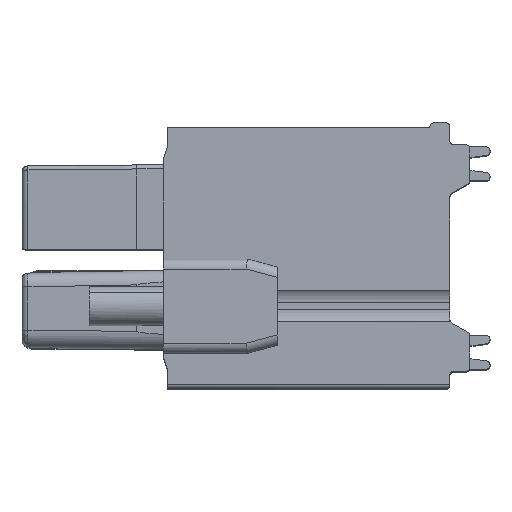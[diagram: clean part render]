
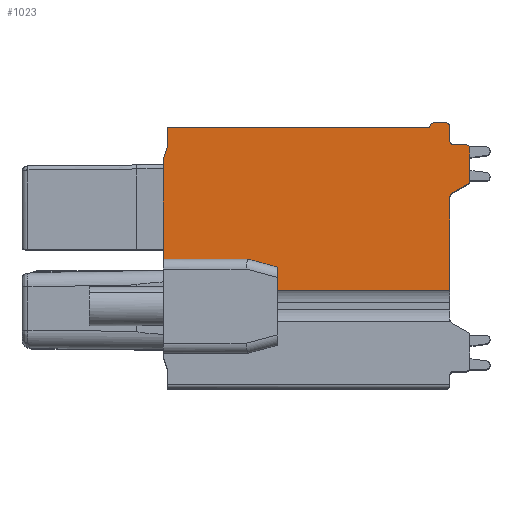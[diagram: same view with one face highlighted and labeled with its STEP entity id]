
A CAD part, top view. The second image highlights one B-rep face of the part: STEP entity #1023.
In plain terms, the highlighted planar face has unit normal (0, 0, 1).
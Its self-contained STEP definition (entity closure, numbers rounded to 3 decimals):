
#1023=ADVANCED_FACE('',(#11076),#11075,.F.);
#11075=PLANE('',#20906);
#11076=FACE_OUTER_BOUND('',#20907,.T.);
#20903=CARTESIAN_POINT('',(18.342,60.223,-4.975));
#20904=DIRECTION('',(0.,0.,-1.));
#20905=DIRECTION('',(1.,0.,0.));
#20906=AXIS2_PLACEMENT_3D('',#20903,#20904,#20905);
#20907=EDGE_LOOP('',(#27706,#27707,#27708,#27709,#27710,#27711,#27712,#27713,#27714,#27715,#27716,#27717,#27718,#27719,#27720,#27721,#27722,#27723,#27724,#27725,#27726,#27727));
#27706=ORIENTED_EDGE('',*,*,#28634,.T.);
#27707=ORIENTED_EDGE('',*,*,#31230,.T.);
#27708=ORIENTED_EDGE('',*,*,#31206,.F.);
#27709=ORIENTED_EDGE('',*,*,#31202,.T.);
#27710=ORIENTED_EDGE('',*,*,#31338,.F.);
#27711=ORIENTED_EDGE('',*,*,#31336,.F.);
#27712=ORIENTED_EDGE('',*,*,#31198,.F.);
#27713=ORIENTED_EDGE('',*,*,#31214,.F.);
#27714=ORIENTED_EDGE('',*,*,#31216,.F.);
#27715=ORIENTED_EDGE('',*,*,#31229,.T.);
#27716=ORIENTED_EDGE('',*,*,#31347,.T.);
#27717=ORIENTED_EDGE('',*,*,#31348,.T.);
#27718=ORIENTED_EDGE('',*,*,#31349,.F.);
#27719=ORIENTED_EDGE('',*,*,#31350,.T.);
#27720=ORIENTED_EDGE('',*,*,#31298,.T.);
#27721=ORIENTED_EDGE('',*,*,#31351,.F.);
#27722=ORIENTED_EDGE('',*,*,#31352,.F.);
#27723=ORIENTED_EDGE('',*,*,#31353,.T.);
#27724=ORIENTED_EDGE('',*,*,#31285,.T.);
#27725=ORIENTED_EDGE('',*,*,#31354,.T.);
#27726=ORIENTED_EDGE('',*,*,#31355,.T.);
#27727=ORIENTED_EDGE('',*,*,#31356,.F.);
#28634=EDGE_CURVE('',#31868,#31861,#31869,.T.);
#31198=EDGE_CURVE('',#48933,#48934,#48935,.T.);
#31202=EDGE_CURVE('',#48961,#48962,#48963,.T.);
#31206=EDGE_CURVE('',#48961,#48989,#48990,.T.);
#31214=EDGE_CURVE('',#49042,#48933,#49043,.T.);
#31216=EDGE_CURVE('',#49055,#49042,#49056,.T.);
#31229=EDGE_CURVE('',#49055,#49130,#49137,.T.);
#31230=EDGE_CURVE('',#31861,#48989,#49143,.T.);
#31285=EDGE_CURVE('',#49513,#49506,#49514,.T.);
#31298=EDGE_CURVE('',#49602,#49595,#49603,.T.);
#31336=EDGE_CURVE('',#48934,#49845,#49846,.T.);
#31338=EDGE_CURVE('',#49845,#48962,#49858,.T.);
#31347=EDGE_CURVE('',#49130,#49916,#49917,.T.);
#31348=EDGE_CURVE('',#49916,#49923,#49924,.T.);
#31349=EDGE_CURVE('',#49930,#49923,#49931,.T.);
#31350=EDGE_CURVE('',#49930,#49602,#49937,.T.);
#31351=EDGE_CURVE('',#49943,#49595,#49944,.T.);
#31352=EDGE_CURVE('',#49950,#49943,#49951,.T.);
#31353=EDGE_CURVE('',#49950,#49513,#49957,.T.);
#31354=EDGE_CURVE('',#49506,#49963,#49964,.T.);
#31355=EDGE_CURVE('',#49963,#49970,#49971,.T.);
#31356=EDGE_CURVE('',#31868,#49970,#49977,.T.);
#31861=VERTEX_POINT('',#51835);
#31868=VERTEX_POINT('',#51840);
#31869=LINE('',#51841,#51842);
#48933=VERTEX_POINT('',#63990);
#48934=VERTEX_POINT('',#63991);
#48935=CIRCLE('',#63995,0.2);
#48961=VERTEX_POINT('',#64008);
#48962=VERTEX_POINT('',#64009);
#48963=LINE('',#64010,#64011);
#48989=VERTEX_POINT('',#64024);
#48990=CIRCLE('',#64028,0.2);
#49042=VERTEX_POINT('',#64057);
#49043=LINE('',#64058,#64059);
#49055=VERTEX_POINT('',#64064);
#49056=CIRCLE('',#64068,0.2);
#49130=VERTEX_POINT('',#64108);
#49137=LINE('',#64112,#64113);
#49143=LINE('',#64115,#64116);
#49506=VERTEX_POINT('',#64345);
#49513=VERTEX_POINT('',#64349);
#49514=LINE('',#64350,#64351);
#49595=VERTEX_POINT('',#64396);
#49602=VERTEX_POINT('',#64400);
#49603=LINE('',#64401,#64402);
#49845=VERTEX_POINT('',#64538);
#49846=LINE('',#64539,#64540);
#49858=CIRCLE('',#64548,0.2);
#49916=VERTEX_POINT('',#64579);
#49917=CIRCLE('',#64583,0.2);
#49923=VERTEX_POINT('',#64584);
#49924=LINE('',#64585,#64586);
#49930=VERTEX_POINT('',#64588);
#49931=CIRCLE('',#64592,0.2);
#49937=LINE('',#64593,#64594);
#49943=VERTEX_POINT('',#64596);
#49944=LINE('',#64597,#64598);
#49950=VERTEX_POINT('',#64600);
#49951=LINE('',#64601,#64602);
#49957=LINE('',#64604,#64605);
#49963=VERTEX_POINT('',#64607);
#49964=LINE('',#64608,#64609);
#49970=VERTEX_POINT('',#64611);
#49971=LINE('',#64612,#64613);
#49977=LINE('',#64615,#64616);
#51835=CARTESIAN_POINT('',(34.172,51.023,-4.975));
#51840=CARTESIAN_POINT('',(25.412,51.023,-4.975));
#51841=CARTESIAN_POINT('',(25.412,51.023,-4.975));
#51842=VECTOR('',#51843,8.76);
#51843=DIRECTION('',(1.,0.,0.));
#63990=CARTESIAN_POINT('',(34.972,58.287,-4.975));
#63991=CARTESIAN_POINT('',(35.172,58.087,-4.975));
#63992=CARTESIAN_POINT('',(34.972,58.087,-4.975));
#63993=DIRECTION('',(0.,0.,-1.));
#63994=DIRECTION('',(0.,-1.,0.));
#63995=AXIS2_PLACEMENT_3D('',#63992,#63993,#63994);
#64008=CARTESIAN_POINT('',(34.272,55.867,-4.975));
#64009=CARTESIAN_POINT('',(35.072,56.329,-4.975));
#64010=CARTESIAN_POINT('',(34.272,55.867,-4.975));
#64011=VECTOR('',#64012,0.924);
#64012=DIRECTION('',(0.866,0.5,0.));
#64024=CARTESIAN_POINT('',(34.172,55.694,-4.975));
#64025=CARTESIAN_POINT('',(34.372,55.694,-4.975));
#64026=DIRECTION('',(0.,0.,1.));
#64027=DIRECTION('',(0.5,-0.866,0.));
#64028=AXIS2_PLACEMENT_3D('',#64025,#64026,#64027);
#64057=CARTESIAN_POINT('',(34.372,58.287,-4.975));
#64058=CARTESIAN_POINT('',(34.372,58.287,-4.975));
#64059=VECTOR('',#64060,0.6);
#64060=DIRECTION('',(1.,0.,0.));
#64064=CARTESIAN_POINT('',(34.172,58.487,-4.975));
#64065=CARTESIAN_POINT('',(34.372,58.487,-4.975));
#64066=DIRECTION('',(0.,0.,1.));
#64067=DIRECTION('',(1.,0.,0.));
#64068=AXIS2_PLACEMENT_3D('',#64065,#64066,#64067);
#64108=CARTESIAN_POINT('',(34.172,59.187,-4.975));
#64112=CARTESIAN_POINT('',(34.172,58.487,-4.975));
#64113=VECTOR('',#64114,0.7);
#64114=DIRECTION('',(0.,1.,0.));
#64115=CARTESIAN_POINT('',(34.172,51.023,-4.975));
#64116=VECTOR('',#64117,4.671);
#64117=DIRECTION('',(0.,1.,0.));
#64345=CARTESIAN_POINT('',(24.072,52.587,-4.975));
#64349=CARTESIAN_POINT('',(19.872,52.587,-4.975));
#64350=CARTESIAN_POINT('',(19.872,52.587,-4.975));
#64351=VECTOR('',#64352,4.2);
#64352=DIRECTION('',(1.,0.,0.));
#64396=CARTESIAN_POINT('',(20.072,59.137,-4.975));
#64400=CARTESIAN_POINT('',(33.172,59.137,-4.975));
#64401=CARTESIAN_POINT('',(33.172,59.137,-4.975));
#64402=VECTOR('',#64403,13.1);
#64403=DIRECTION('',(-1.,0.,0.));
#64538=CARTESIAN_POINT('',(35.172,56.502,-4.975));
#64539=CARTESIAN_POINT('',(35.172,58.087,-4.975));
#64540=VECTOR('',#64541,1.585);
#64541=DIRECTION('',(0.,-1.,0.));
#64545=CARTESIAN_POINT('',(34.972,56.502,-4.975));
#64546=DIRECTION('',(0.,0.,-1.));
#64547=DIRECTION('',(-1.,0.,0.));
#64548=AXIS2_PLACEMENT_3D('',#64545,#64546,#64547);
#64579=CARTESIAN_POINT('',(33.972,59.387,-4.975));
#64580=CARTESIAN_POINT('',(33.972,59.187,-4.975));
#64581=DIRECTION('',(0.,0.,1.));
#64582=DIRECTION('',(-1.,0.,0.));
#64583=AXIS2_PLACEMENT_3D('',#64580,#64581,#64582);
#64584=CARTESIAN_POINT('',(33.372,59.387,-4.975));
#64585=CARTESIAN_POINT('',(33.972,59.387,-4.975));
#64586=VECTOR('',#64587,0.6);
#64587=DIRECTION('',(-1.,0.,0.));
#64588=CARTESIAN_POINT('',(33.172,59.187,-4.975));
#64589=CARTESIAN_POINT('',(33.372,59.187,-4.975));
#64590=DIRECTION('',(0.,0.,-1.));
#64591=DIRECTION('',(1.,0.,0.));
#64592=AXIS2_PLACEMENT_3D('',#64589,#64590,#64591);
#64593=CARTESIAN_POINT('',(33.172,59.187,-4.975));
#64594=VECTOR('',#64595,0.05);
#64595=DIRECTION('',(0.,-1.,0.));
#64596=CARTESIAN_POINT('',(20.072,58.137,-4.975));
#64597=CARTESIAN_POINT('',(20.072,58.137,-4.975));
#64598=VECTOR('',#64599,1.);
#64599=DIRECTION('',(0.,1.,0.));
#64600=CARTESIAN_POINT('',(19.872,57.587,-4.975));
#64601=CARTESIAN_POINT('',(19.872,57.587,-4.975));
#64602=VECTOR('',#64603,0.585);
#64603=DIRECTION('',(0.342,0.94,0.));
#64604=CARTESIAN_POINT('',(19.872,57.587,-4.975));
#64605=VECTOR('',#64606,5.001);
#64606=DIRECTION('',(0.,-1.,0.));
#64607=CARTESIAN_POINT('',(25.572,52.185,-4.975));
#64608=CARTESIAN_POINT('',(24.072,52.587,-4.975));
#64609=VECTOR('',#64610,1.553);
#64610=DIRECTION('',(0.966,-0.259,0.));
#64611=CARTESIAN_POINT('',(25.572,51.25,-4.975));
#64612=CARTESIAN_POINT('',(25.572,52.185,-4.975));
#64613=VECTOR('',#64614,0.935);
#64614=DIRECTION('',(0.,-1.,0.));
#64615=CARTESIAN_POINT('',(25.412,51.023,-4.975));
#64616=VECTOR('',#64617,0.277);
#64617=DIRECTION('',(0.577,0.816,0.));
